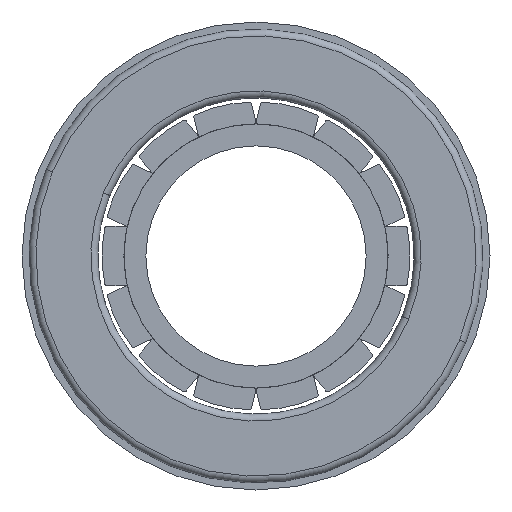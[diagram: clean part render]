
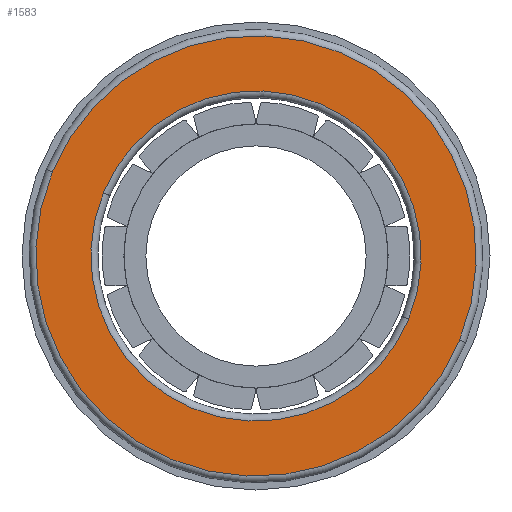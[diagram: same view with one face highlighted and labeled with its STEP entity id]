
A CAD part, left-side view. The second image highlights one B-rep face of the part: STEP entity #1583.
In plain terms, the highlighted planar face has unit normal (-1, 0, 0) as drawn and (1, 0, 0) by its records, which use the part's own axes.
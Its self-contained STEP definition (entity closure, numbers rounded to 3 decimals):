
#84 = AXIS2_PLACEMENT_3D ( 'NONE', #1077, #1496, #2561 ) ;
#198 = DIRECTION ( 'NONE',  ( -1., 0., 0. ) ) ;
#395 = DIRECTION ( 'NONE',  ( 0., 0., -1. ) ) ;
#434 = VERTEX_POINT ( 'NONE', #1522 ) ;
#445 = CIRCLE ( 'NONE', #2325, 24. ) ;
#470 = CARTESIAN_POINT ( 'NONE',  ( 4.6, 0., -24. ) ) ;
#617 = EDGE_CURVE ( 'NONE', #691, #2470, #2359, .T. ) ;
#691 = VERTEX_POINT ( 'NONE', #470 ) ;
#810 = CARTESIAN_POINT ( 'NONE',  ( 4.6, 0., 24. ) ) ;
#963 = CARTESIAN_POINT ( 'NONE',  ( 4.6, 0., 0. ) ) ;
#974 = DIRECTION ( 'NONE',  ( 0., 0., -1. ) ) ;
#979 = DIRECTION ( 'NONE',  ( 1., 0., 0. ) ) ;
#1030 = ORIENTED_EDGE ( 'NONE', *, *, #617, .T. ) ;
#1032 = EDGE_LOOP ( 'NONE', ( #1030, #1507 ) ) ;
#1046 = FACE_BOUND ( 'NONE', #1032, .T. ) ;
#1052 = PLANE ( 'NONE',  #1274 ) ;
#1077 = CARTESIAN_POINT ( 'NONE',  ( 4.6, 0., 0. ) ) ;
#1104 = CARTESIAN_POINT ( 'NONE',  ( 4.6, 0., 32. ) ) ;
#1207 = CARTESIAN_POINT ( 'NONE',  ( 4.6, 0., 0. ) ) ;
#1217 = DIRECTION ( 'NONE',  ( 0., 0., -1. ) ) ;
#1274 = AXIS2_PLACEMENT_3D ( 'NONE', #1401, #1607, #395 ) ;
#1401 = CARTESIAN_POINT ( 'NONE',  ( 4.6, 0., 0. ) ) ;
#1429 = ORIENTED_EDGE ( 'NONE', *, *, #2522, .T. ) ;
#1496 = DIRECTION ( 'NONE',  ( 1., 0., 0. ) ) ;
#1507 = ORIENTED_EDGE ( 'NONE', *, *, #2588, .T. ) ;
#1522 = CARTESIAN_POINT ( 'NONE',  ( 4.6, 0., -32. ) ) ;
#1583 = ADVANCED_FACE ( 'NONE', ( #1046, #2155 ), #1052, .T. ) ;
#1594 = CARTESIAN_POINT ( 'NONE',  ( 4.6, 0., 0. ) ) ;
#1607 = DIRECTION ( 'NONE',  ( 1., 0., 0. ) ) ;
#1669 = AXIS2_PLACEMENT_3D ( 'NONE', #1594, #979, #1817 ) ;
#1729 = CIRCLE ( 'NONE', #1669, 32. ) ;
#1743 = ORIENTED_EDGE ( 'NONE', *, *, #1879, .T. ) ;
#1817 = DIRECTION ( 'NONE',  ( 0., 0., -1. ) ) ;
#1879 = EDGE_CURVE ( 'NONE', #434, #2048, #2125, .T. ) ;
#2048 = VERTEX_POINT ( 'NONE', #1104 ) ;
#2125 = CIRCLE ( 'NONE', #84, 32. ) ;
#2155 = FACE_OUTER_BOUND ( 'NONE', #2403, .T. ) ;
#2210 = AXIS2_PLACEMENT_3D ( 'NONE', #963, #2657, #974 ) ;
#2325 = AXIS2_PLACEMENT_3D ( 'NONE', #1207, #198, #1217 ) ;
#2359 = CIRCLE ( 'NONE', #2210, 24. ) ;
#2403 = EDGE_LOOP ( 'NONE', ( #1743, #1429 ) ) ;
#2470 = VERTEX_POINT ( 'NONE', #810 ) ;
#2522 = EDGE_CURVE ( 'NONE', #2048, #434, #1729, .T. ) ;
#2561 = DIRECTION ( 'NONE',  ( 0., 0., -1. ) ) ;
#2588 = EDGE_CURVE ( 'NONE', #2470, #691, #445, .T. ) ;
#2657 = DIRECTION ( 'NONE',  ( -1., 0., 0. ) ) ;
